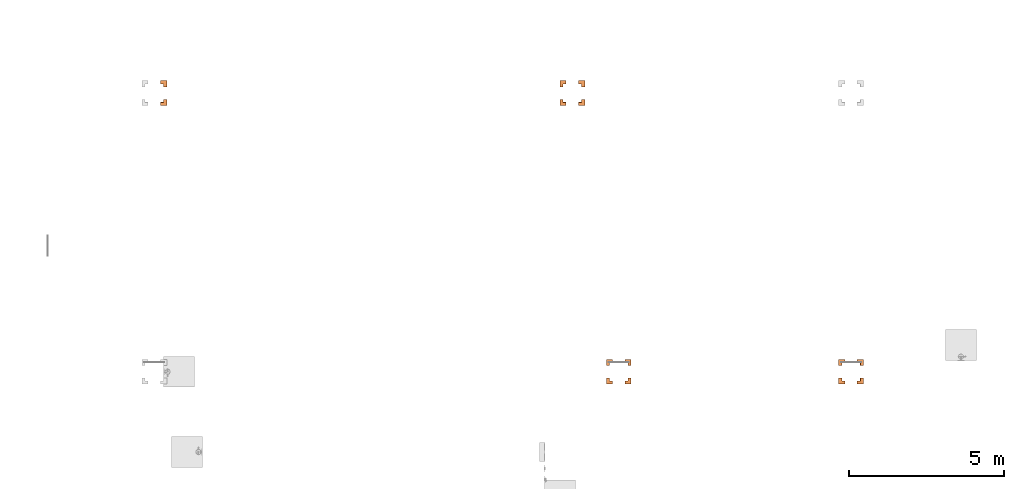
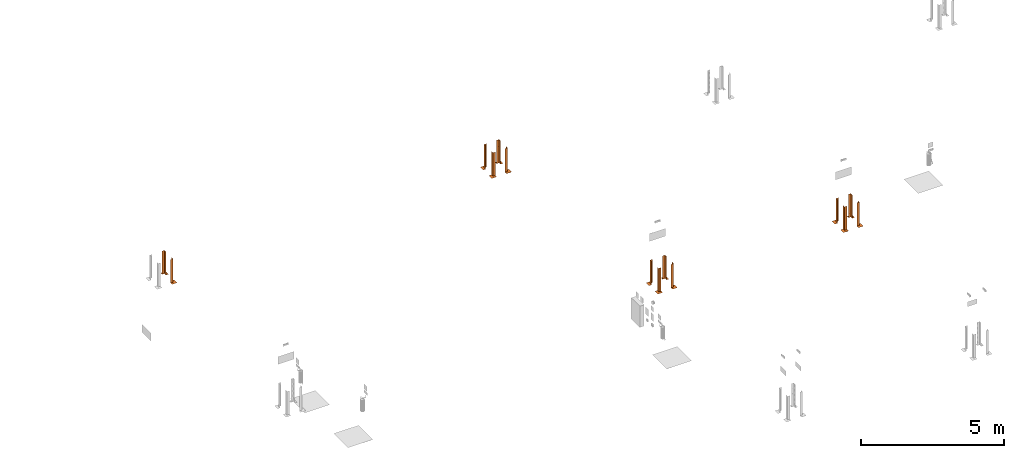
# One storey, part 15 of 119: 14 proxies.
"""IFC2X3 building model written with IfcOpenShell, lengths in metres."""

from ifc_helpers import new_model, entity, si_unit, converted_unit, derived_unit, direction, frame, origin, place, context, subcontext, project, spatial, faceted_brep, source, transform, mapped, material, material_list, type_object, type_shapes, element, save


model = new_model("IFC2X3")

# Units and contexts
model_context = context("Model", 3, precision=1e-05, world=origin(), true_north=direction((6.12303176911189e-17, 1.0)))
body_context = subcontext(model_context, "Body", "Model", "MODEL_VIEW")
ifc_project = project(units=[si_unit("LENGTHUNIT", "METRE"), si_unit("AREAUNIT", "SQUARE_METRE"), si_unit("VOLUMEUNIT", "CUBIC_METRE"), converted_unit("PLANEANGLEUNIT", "DEGREE", entity("IfcRatioMeasure", 0.0174532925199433), si_unit("PLANEANGLEUNIT", "RADIAN"), dimensions=[0, 0, 0, 0, 0, 0, 0]), si_unit("MASSUNIT", "GRAM", prefix="KILO"), derived_unit("MASSDENSITYUNIT", [(si_unit("MASSUNIT", "GRAM", prefix="KILO"), 1), (si_unit("LENGTHUNIT", "METRE"), -3)]), derived_unit("MOMENTOFINERTIAUNIT", [(si_unit("LENGTHUNIT", "METRE"), 4)]), si_unit("TIMEUNIT", "SECOND"), si_unit("FREQUENCYUNIT", "HERTZ"), si_unit("THERMODYNAMICTEMPERATUREUNIT", "DEGREE_CELSIUS"), derived_unit("THERMALTRANSMITTANCEUNIT", [(si_unit("MASSUNIT", "GRAM", prefix="KILO"), 1), (si_unit("THERMODYNAMICTEMPERATUREUNIT", "KELVIN"), -1), (si_unit("TIMEUNIT", "SECOND"), -3)]), derived_unit("VOLUMETRICFLOWRATEUNIT", [(si_unit("LENGTHUNIT", "METRE"), 3), (si_unit("TIMEUNIT", "SECOND"), -1)]), si_unit("ELECTRICCURRENTUNIT", "AMPERE"), si_unit("ELECTRICVOLTAGEUNIT", "VOLT"), si_unit("POWERUNIT", "WATT"), si_unit("FORCEUNIT", "NEWTON", prefix="KILO"), si_unit("ILLUMINANCEUNIT", "LUX"), si_unit("LUMINOUSFLUXUNIT", "LUMEN"), si_unit("LUMINOUSINTENSITYUNIT", "CANDELA"), derived_unit("USERDEFINED", [(si_unit("MASSUNIT", "GRAM", prefix="KILO"), -1), (si_unit("LENGTHUNIT", "METRE"), -2), (si_unit("TIMEUNIT", "SECOND"), 3), (si_unit("LUMINOUSFLUXUNIT", "LUMEN"), 1)]), derived_unit("LINEARVELOCITYUNIT", [(si_unit("LENGTHUNIT", "METRE"), 1), (si_unit("TIMEUNIT", "SECOND"), -1)]), si_unit("PRESSUREUNIT", "PASCAL"), derived_unit("USERDEFINED", [(si_unit("LENGTHUNIT", "METRE"), -2), (si_unit("MASSUNIT", "GRAM", prefix="KILO"), 1), (si_unit("TIMEUNIT", "SECOND"), -2)]), derived_unit("LINEARFORCEUNIT", [(si_unit("MASSUNIT", "GRAM", prefix="KILO"), 1), (si_unit("LENGTHUNIT", "METRE"), 1), (si_unit("TIMEUNIT", "SECOND"), -2), (si_unit("LENGTHUNIT", "METRE"), -1)]), derived_unit("PLANARFORCEUNIT", [(si_unit("MASSUNIT", "GRAM", prefix="KILO"), 1), (si_unit("LENGTHUNIT", "METRE"), 1), (si_unit("TIMEUNIT", "SECOND"), -2), (si_unit("LENGTHUNIT", "METRE"), -2)])], contexts=[model_context])

# Site, building, storey
site_placement = place(None, origin())
site = spatial("IfcSite", under=ifc_project, at=site_placement, Name="Default", CompositionType="ELEMENT")
building_placement = place(site_placement, origin())
building = spatial("IfcBuilding", under=site, at=building_placement, CompositionType="ELEMENT")
storey_placement = place(building_placement, origin())
storey = spatial("IfcBuildingStorey", under=building, at=storey_placement, Name="PAV. 01 - TÉRREO", CompositionType="ELEMENT", Elevation=0.0)

# Proxies
ifc_material_1 = material(Name="Plastico Amarelo")
ifc_material_2 = material(Name="Plastico Preto")
ifc_material_3 = material(Name="O_01_amarelo")
ifc_material_4 = material(Name="O_01_Preto")
ifc_material_list_1 = material_list([ifc_material_1, ifc_material_2, ifc_material_3, ifc_material_4])
ifc_material_list_2 = material_list([ifc_material_3, ifc_material_4, ifc_material_1])
building_element_proxy_type = type_object("IfcBuildingElementProxyType", Name="Indicação de Obstáculos:Indicador - O01 - Amarelo (ambiente interno)", PredefinedType="NOTDEFINED", material=ifc_material_list_2)
shared_shape = source(origin(), body_context, "Body", "Brep", [
    faceted_brep([(0.1, -0.0499999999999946, 0.000999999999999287), (0.0499999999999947, -0.1, 0.000999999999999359), (0.1, -0.1, 0.000999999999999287), (0.1, -0.0499999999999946, 0.0), (0.1, -0.1, 0.0), (0.0499999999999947, -0.1, 0.0)], [[[0, 1, 2]], [[3, 4, 5]], [[0, 2, 4, 3]], [[1, 0, 3, 5]], [[2, 1, 5, 4]]]),
    faceted_brep([(0.100000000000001, 0.0, 0.000999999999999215), (0.0, -0.1, 0.000999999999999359), (0.049999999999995, -0.1, 0.000999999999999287), (0.100000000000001, -0.0499999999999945, 0.000999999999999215), (0.100000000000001, 0.0, 0.0), (0.100000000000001, -0.0499999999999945, 0.0), (0.049999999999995, -0.1, 0.0), (0.0, -0.1, 0.0)], [[[0, 1, 2, 3]], [[4, 5, 6, 7]], [[0, 3, 5, 4]], [[1, 0, 4, 7]], [[3, 2, 6, 5]], [[2, 1, 7, 6]]]),
    faceted_brep([(0.049999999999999, 0.0, 0.000999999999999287), (-0.0500000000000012, -0.0999999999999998, 0.000999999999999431), (0.0, -0.1, 0.000999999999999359), (0.0999999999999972, 0.0, 0.000999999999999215), (0.049999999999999, 0.0, 0.0), (0.0999999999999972, 0.0, 0.0), (0.0, -0.1, 0.0), (-0.0500000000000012, -0.0999999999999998, 0.0)], [[[0, 1, 2, 3]], [[4, 5, 6, 7]], [[1, 0, 4, 7]], [[3, 2, 6, 5]], [[2, 1, 7, 6]], [[0, 3, 5, 4]]]),
    faceted_brep([(-0.0999999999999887, -0.0999999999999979, 0.000999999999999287), (-0.0499999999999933, -0.0999999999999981, 0.000999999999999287), (0.0499999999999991, 0.0, 0.000999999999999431), (0.0, 0.0, 0.000999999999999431), (-0.0999999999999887, -0.0999999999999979, 0.0), (0.0, 0.0, 0.0), (0.049999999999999, 0.0, 0.0), (-0.0499999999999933, -0.0999999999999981, 0.0)], [[[0, 1, 2, 3]], [[4, 5, 6, 7]], [[0, 3, 5, 4]], [[2, 1, 7, 6]], [[3, 2, 6, 5]], [[1, 0, 4, 7]]]),
    faceted_brep([(0.0, 0.0500000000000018, 0.000999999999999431), (-0.0999999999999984, -0.0500000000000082, 0.000999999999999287), (-0.099999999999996, -0.100000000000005, 0.000999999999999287), (0.0, 0.0, 0.000999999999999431), (0.0, 0.0500000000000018, 0.0), (0.0, 0.0, 0.0), (-0.099999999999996, -0.100000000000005, 0.0), (-0.0999999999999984, -0.0500000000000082, 0.0)], [[[0, 1, 2, 3]], [[4, 5, 6, 7]], [[0, 3, 5, 4]], [[1, 0, 4, 7]], [[2, 1, 7, 6]], [[3, 2, 6, 5]]]),
    faceted_brep([(-0.0999999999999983, 0.0499999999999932, 0.000999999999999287), (-0.0499999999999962, 0.1, 0.000999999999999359), (-0.100000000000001, 0.1, 0.000999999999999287), (-0.0999999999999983, 0.0499999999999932, 0.0), (-0.100000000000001, 0.1, 0.0), (-0.0499999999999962, 0.1, 0.0)], [[[0, 1, 2]], [[3, 4, 5]], [[0, 2, 4, 3]], [[1, 0, 3, 5]], [[2, 1, 5, 4]]]),
    faceted_brep([(-0.0999999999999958, 0.0, 0.000999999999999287), (0.0, 0.1, 0.000999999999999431), (-0.0499999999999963, 0.1, 0.000999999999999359), (-0.0999999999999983, 0.0499999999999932, 0.000999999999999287), (-0.0999999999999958, 0.0, 0.0), (-0.0999999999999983, 0.0499999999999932, 0.0), (-0.0499999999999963, 0.1, 0.0), (0.0, 0.1, 0.0)], [[[0, 1, 2, 3]], [[4, 5, 6, 7]], [[0, 3, 5, 4]], [[1, 0, 4, 7]], [[3, 2, 6, 5]], [[2, 1, 7, 6]]]),
    faceted_brep([(0.0, 0.050000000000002, 0.000999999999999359), (0.0, 0.1, 0.000999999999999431), (-0.0999999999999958, 0.0, 0.000999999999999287), (-0.0999999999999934, -0.0500000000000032, 0.000999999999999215), (0.0, 0.0500000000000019, 0.0), (-0.0999999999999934, -0.0500000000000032, 0.0), (-0.0999999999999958, 0.0, 0.0), (0.0, 0.1, 0.0)], [[[0, 1, 2, 3]], [[4, 5, 6, 7]], [[1, 0, 4, 7]], [[2, 1, 7, 6]], [[0, 3, 5, 4]], [[3, 2, 6, 5]]]),
    faceted_brep([(0.00200000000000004, 0.1, 1.0), (0.002, 0.00199999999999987, 0.902000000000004), (0.002, 0.00199999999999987, 0.802000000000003), (0.00200000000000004, 0.1, 0.900000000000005), (0.0, 0.1, 0.900000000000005), (0.0, 0.0, 0.800000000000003), (0.0, 0.0, 0.900000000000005), (0.0, 0.1, 1.0)], [[[0, 1, 2, 3]], [[4, 5, 6, 7]], [[4, 3, 2, 5]], [[1, 6, 5, 2]], [[6, 1, 0, 7]], [[3, 4, 7, 0]]]),
    faceted_brep([(0.00200000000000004, 0.1, 0.800000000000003), (0.002, 0.00199999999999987, 0.702000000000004), (0.002, 0.00199999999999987, 0.602000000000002), (0.00200000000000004, 0.1, 0.700000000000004), (0.0, 0.1, 0.700000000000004), (0.0, 0.0, 0.600000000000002), (0.0, 0.0, 0.700000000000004), (0.0, 0.1, 0.800000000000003)], [[[0, 1, 2, 3]], [[4, 5, 6, 7]], [[4, 3, 2, 5]], [[1, 6, 5, 2]], [[6, 1, 0, 7]], [[3, 4, 7, 0]]]),
    faceted_brep([(0.00200000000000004, 0.1, 0.600000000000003), (0.002, 0.00199999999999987, 0.502000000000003), (0.002, 0.00199999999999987, 0.402000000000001), (0.00200000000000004, 0.1, 0.500000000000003), (0.0, 0.1, 0.500000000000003), (0.0, 0.0, 0.400000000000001), (0.0, 0.0, 0.500000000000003), (0.0, 0.1, 0.600000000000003)], [[[0, 1, 2, 3]], [[4, 5, 6, 7]], [[4, 3, 2, 5]], [[1, 6, 5, 2]], [[6, 1, 0, 7]], [[3, 4, 7, 0]]]),
    faceted_brep([(0.00200000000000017, 0.0999999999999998, 0.400000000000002), (0.00200000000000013, 0.0019999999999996, 0.302000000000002), (0.00200000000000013, 0.0019999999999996, 0.202), (0.00200000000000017, 0.0999999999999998, 0.300000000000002), (0.0, 0.0999999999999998, 0.300000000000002), (0.0, 0.0, 0.2), (0.0, 0.0, 0.300000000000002), (0.0, 0.0999999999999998, 0.400000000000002)], [[[0, 1, 2, 3]], [[4, 5, 6, 7]], [[4, 3, 2, 5]], [[1, 6, 5, 2]], [[6, 1, 0, 7]], [[3, 4, 7, 0]]]),
    faceted_brep([(0.000500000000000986, 0.1, 0.900000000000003), (0.000500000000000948, 0.000499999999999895, 0.800500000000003), (0.000500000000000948, 0.00049999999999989, 0.700500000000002), (0.000500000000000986, 0.1, 0.800000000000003), (0.0, 0.1, 0.800000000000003), (0.0, 0.0, 0.700000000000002), (0.0, 0.0, 0.800000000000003), (0.0, 0.1, 0.900000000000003)], [[[0, 1, 2, 3]], [[4, 5, 6, 7]], [[4, 3, 2, 5]], [[1, 6, 5, 2]], [[6, 1, 0, 7]], [[3, 4, 7, 0]]]),
    faceted_brep([(0.000500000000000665, 0.1, 0.700000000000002), (0.000500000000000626, 0.000499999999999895, 0.600500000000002), (0.000500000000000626, 0.00049999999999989, 0.500500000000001), (0.000500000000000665, 0.1, 0.600000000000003), (0.0, 0.1, 0.600000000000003), (0.0, 0.0, 0.500000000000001), (0.0, 0.0, 0.600000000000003), (0.0, 0.1, 0.700000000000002)], [[[0, 1, 2, 3]], [[4, 5, 6, 7]], [[4, 3, 2, 5]], [[1, 6, 5, 2]], [[6, 1, 0, 7]], [[3, 4, 7, 0]]]),
    faceted_brep([(0.000500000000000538, 0.0999999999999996, 0.500000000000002), (0.000500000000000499, 0.000499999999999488, 0.400500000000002), (0.000500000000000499, 0.000499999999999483, 0.3005), (0.000500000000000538, 0.0999999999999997, 0.400000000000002), (0.0, 0.0999999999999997, 0.400000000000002), (0.0, 0.0, 0.3), (0.0, 0.0, 0.400000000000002), (0.0, 0.0999999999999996, 0.500000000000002)], [[[0, 1, 2, 3]], [[4, 5, 6, 7]], [[4, 3, 2, 5]], [[1, 6, 5, 2]], [[6, 1, 0, 7]], [[3, 4, 7, 0]]]),
    faceted_brep([(0.00499999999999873, 0.00499999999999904, 1.0), (0.00499999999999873, 0.00499999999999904, 0.904999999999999), (0.00499999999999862, 0.0999999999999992, 1.0), (0.0, 0.0, 0.899999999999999), (0.0, 0.0, 1.0), (0.0, 0.0999999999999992, 1.0)], [[[0, 1, 2]], [[3, 4, 5]], [[4, 0, 2, 5]], [[5, 2, 1, 3]], [[0, 4, 3, 1]]]),
    faceted_brep([(0.00499999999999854, 0.00499999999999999, 1.0), (0.0999999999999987, 0.00499999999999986, 1.0), (0.00499999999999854, 0.00499999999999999, 0.904999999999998), (0.0, 0.0, 0.899999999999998), (0.0999999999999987, 0.0, 1.0), (0.0, 0.0, 1.0)], [[[0, 1, 2]], [[3, 4, 5]], [[5, 4, 1, 0]], [[4, 3, 2, 1]], [[0, 2, 3, 5]]]),
    faceted_brep([(0.0999999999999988, 0.000499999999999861, 0.900000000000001), (0.0999999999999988, 0.000499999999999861, 0.800000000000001), (0.000499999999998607, 0.000499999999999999, 0.7005), (0.000499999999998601, 0.000499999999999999, 0.800500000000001), (0.0999999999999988, 0.0, 0.800000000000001), (0.0999999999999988, 0.0, 0.900000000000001), (0.0, 0.0, 0.800000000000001), (0.0, 0.0, 0.7)], [[[0, 1, 2, 3]], [[4, 5, 6, 7]], [[4, 7, 2, 1]], [[3, 2, 7, 6]], [[6, 5, 0, 3]], [[1, 0, 5, 4]]]),
    faceted_brep([(0.0999999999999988, 0.000499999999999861, 0.700000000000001), (0.0999999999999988, 0.000499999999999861, 0.600000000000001), (0.000499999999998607, 0.000499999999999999, 0.5005), (0.000499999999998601, 0.000499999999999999, 0.600500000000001), (0.0999999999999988, 0.0, 0.600000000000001), (0.0999999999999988, 0.0, 0.700000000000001), (0.0, 0.0, 0.600000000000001), (0.0, 0.0, 0.5)], [[[0, 1, 2, 3]], [[4, 5, 6, 7]], [[4, 7, 2, 1]], [[3, 2, 7, 6]], [[6, 5, 0, 3]], [[1, 0, 5, 4]]]),
    faceted_brep([(0.0999999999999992, 0.000499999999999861, 0.500000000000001), (0.0999999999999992, 0.000499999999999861, 0.400000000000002), (0.000499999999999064, 0.000499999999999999, 0.3005), (0.000499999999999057, 0.000499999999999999, 0.400500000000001), (0.0999999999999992, 0.0, 0.400000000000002), (0.0999999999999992, 0.0, 0.500000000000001), (0.0, 0.0, 0.400000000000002), (0.0, 0.0, 0.3)], [[[0, 1, 2, 3]], [[4, 5, 6, 7]], [[4, 7, 2, 1]], [[3, 2, 7, 6]], [[6, 5, 0, 3]], [[1, 0, 5, 4]]]),
    faceted_brep([(0.0999999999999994, 0.00199999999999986, 1.0), (0.0999999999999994, 0.00199999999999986, 0.900000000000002), (0.00199999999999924, 0.002, 0.802), (0.00199999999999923, 0.002, 0.902000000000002), (0.0999999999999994, 0.0, 0.900000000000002), (0.0999999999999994, 0.0, 1.0), (0.0, 0.0, 0.900000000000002), (0.0, 0.0, 0.8)], [[[0, 1, 2, 3]], [[4, 5, 6, 7]], [[4, 7, 2, 1]], [[3, 2, 7, 6]], [[6, 5, 0, 3]], [[1, 0, 5, 4]]]),
    faceted_brep([(0.0999999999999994, 0.00199999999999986, 0.800000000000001), (0.0999999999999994, 0.00199999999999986, 0.700000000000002), (0.00199999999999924, 0.002, 0.602), (0.00199999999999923, 0.002, 0.702000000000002), (0.0999999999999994, 0.0, 0.700000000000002), (0.0999999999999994, 0.0, 0.800000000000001), (0.0, 0.0, 0.700000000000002), (0.0, 0.0, 0.6)], [[[0, 1, 2, 3]], [[4, 5, 6, 7]], [[4, 7, 2, 1]], [[3, 2, 7, 6]], [[6, 5, 0, 3]], [[1, 0, 5, 4]]]),
    faceted_brep([(0.0999999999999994, 0.00199999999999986, 0.600000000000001), (0.0999999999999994, 0.00199999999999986, 0.500000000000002), (0.00199999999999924, 0.002, 0.402), (0.00199999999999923, 0.002, 0.502000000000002), (0.0999999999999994, 0.0, 0.500000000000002), (0.0999999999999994, 0.0, 0.600000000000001), (0.0, 0.0, 0.500000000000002), (0.0, 0.0, 0.4)], [[[0, 1, 2, 3]], [[4, 5, 6, 7]], [[4, 7, 2, 1]], [[3, 2, 7, 6]], [[6, 5, 0, 3]], [[1, 0, 5, 4]]]),
    faceted_brep([(0.0999999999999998, 0.00199999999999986, 0.400000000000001), (0.0999999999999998, 0.00199999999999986, 0.300000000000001), (0.00199999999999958, 0.002, 0.202), (0.00199999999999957, 0.002, 0.302000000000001), (0.0999999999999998, 0.0, 0.300000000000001), (0.0999999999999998, 0.0, 0.400000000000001), (0.0, 0.0, 0.300000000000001), (0.0, 0.0, 0.2)], [[[0, 1, 2, 3]], [[4, 5, 6, 7]], [[4, 7, 2, 1]], [[3, 2, 7, 6]], [[6, 5, 0, 3]], [[1, 0, 5, 4]]]),
    faceted_brep([(0.000500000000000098, 0.1, 0.300000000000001), (0.000500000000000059, 0.000499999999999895, 0.200500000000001), (0.000500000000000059, 0.00049999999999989, 0.1005), (0.000500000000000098, 0.1, 0.200000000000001), (0.0, 0.1, 0.200000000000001), (0.0, 0.0, 0.0999999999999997), (0.0, 0.0, 0.200000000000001), (0.0, 0.1, 0.300000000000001)], [[[0, 1, 2, 3]], [[4, 5, 6, 7]], [[4, 3, 2, 5]], [[1, 6, 5, 2]], [[6, 1, 0, 7]], [[3, 4, 7, 0]]]),
    faceted_brep([(0.00200000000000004, 0.1, 0.200000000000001), (0.002, 0.00199999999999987, 0.102000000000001), (0.002, 0.00199999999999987, 0.00199999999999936), (0.00200000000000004, 0.1, 0.100000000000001), (0.0, 0.1, 0.100000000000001), (0.0, 0.0, 0.0), (0.0, 0.0, 0.100000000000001), (0.0, 0.1, 0.200000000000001)], [[[0, 1, 2, 3]], [[4, 5, 6, 7]], [[4, 3, 2, 5]], [[1, 6, 5, 2]], [[6, 1, 0, 7]], [[3, 4, 7, 0]]]),
    faceted_brep([(0.000500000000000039, 0.1, 0.100000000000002), (0.0005, 0.000499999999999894, 0.000499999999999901), (0.0005, 0.000499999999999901, 0.0), (0.000500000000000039, 0.1, 0.0), (0.0, 0.0, 0.0), (0.0, 0.1, 0.100000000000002), (0.0, 0.1, 0.0)], [[[0, 1, 2, 3]], [[4, 5, 6]], [[3, 6, 5, 0]], [[6, 3, 2, 4]], [[4, 1, 0, 5]], [[1, 4, 2]]]),
    faceted_brep([(0.0999999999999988, 0.000499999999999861, 0.300000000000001), (0.0999999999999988, 0.000499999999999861, 0.200000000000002), (0.000499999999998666, 0.000499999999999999, 0.1005), (0.00049999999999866, 0.000499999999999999, 0.200500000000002), (0.0999999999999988, 0.0, 0.200000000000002), (0.0999999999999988, 0.0, 0.300000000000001), (0.0, 0.0, 0.200000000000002), (0.0, 0.0, 0.1)], [[[0, 1, 2, 3]], [[4, 5, 6, 7]], [[4, 7, 2, 1]], [[3, 2, 7, 6]], [[6, 5, 0, 3]], [[1, 0, 5, 4]]]),
    faceted_brep([(0.0999999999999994, 0.00199999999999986, 0.200000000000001), (0.0999999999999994, 0.00199999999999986, 0.100000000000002), (0.00199999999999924, 0.002, 0.0019999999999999), (0.00199999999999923, 0.002, 0.102000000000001), (0.0999999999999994, 0.0, 0.100000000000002), (0.0999999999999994, 0.0, 0.200000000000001), (0.0, 0.0, 0.100000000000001), (0.0, 0.0, 0.0)], [[[0, 1, 2, 3]], [[4, 5, 6, 7]], [[4, 7, 2, 1]], [[3, 2, 7, 6]], [[6, 5, 0, 3]], [[1, 0, 5, 4]]]),
    faceted_brep([(0.1, 0.000499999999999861, 0.100000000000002), (0.1, 0.000499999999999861, 0.0), (0.000499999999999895, 0.000499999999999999, 0.0), (0.000499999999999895, 0.000499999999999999, 0.000499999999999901), (0.0, 0.0, 0.0), (0.1, 0.0, 0.0), (0.1, 0.0, 0.100000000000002)], [[[0, 1, 2, 3]], [[4, 5, 6]], [[1, 0, 6, 5]], [[5, 4, 2, 1]], [[4, 6, 0, 3]], [[3, 2, 4]]]),
])
type_shapes(building_element_proxy_type, [shared_shape])
proxy_1_placement = place(storey_placement, frame((21.4738560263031, 31.6286451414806, 0.0), z_axis=(0.0, 0.0, 1.0), x_axis=(0.0, 1.0, 0.0)))
element("IfcBuildingElementProxy", 1, at=proxy_1_placement, inside=storey, type_object=building_element_proxy_type, material=ifc_material_list_1, Name="Indicação de Obstáculos:Indicador - O01 - Amarelo (ambiente interno)", ObjectType="Indicação de Obstáculos:Indicador - O01 - Amarelo (ambiente interno)", context=body_context, shape_type="MappedRepresentation", body=[
    mapped(shared_shape, transform((0.0, 0.0, 0.0), scale=1.0)),
])
ifc_material_list_3 = material_list([ifc_material_1, ifc_material_2, ifc_material_3, ifc_material_4])
proxy_2_placement = place(storey_placement, frame((20.873856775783, 31.6286451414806, 0.0)))
element("IfcBuildingElementProxy", 2, at=proxy_2_placement, inside=storey, type_object=building_element_proxy_type, material=ifc_material_list_3, Name="Indicação de Obstáculos:Indicador - O01 - Amarelo (ambiente interno)", ObjectType="Indicação de Obstáculos:Indicador - O01 - Amarelo (ambiente interno)", context=body_context, shape_type="MappedRepresentation", body=[
    mapped(shared_shape, transform((0.0, 0.0, 0.0), scale=1.0)),
])
ifc_material_list_4 = material_list([ifc_material_1, ifc_material_2, ifc_material_3, ifc_material_4])
proxy_3_placement = place(storey_placement, frame((21.4738560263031, 32.2286443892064, 0.0), z_axis=(0.0, 0.0, 1.0), x_axis=(-1.0, 0.0, 0.0)))
element("IfcBuildingElementProxy", 3, at=proxy_3_placement, inside=storey, type_object=building_element_proxy_type, material=ifc_material_list_4, Name="Indicação de Obstáculos:Indicador - O01 - Amarelo (ambiente interno)", ObjectType="Indicação de Obstáculos:Indicador - O01 - Amarelo (ambiente interno)", context=body_context, shape_type="MappedRepresentation", body=[
    mapped(shared_shape, transform((0.0, 0.0, 0.0), scale=1.0)),
])
ifc_material_list_5 = material_list([ifc_material_1, ifc_material_2, ifc_material_3, ifc_material_4])
proxy_4_placement = place(storey_placement, frame((20.8738567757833, 32.2286443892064, 0.0), z_axis=(0.0, 0.0, 1.0), x_axis=(0.0, -1.0, 0.0)))
element("IfcBuildingElementProxy", 4, at=proxy_4_placement, inside=storey, type_object=building_element_proxy_type, material=ifc_material_list_5, Name="Indicação de Obstáculos:Indicador - O01 - Amarelo (ambiente interno)", ObjectType="Indicação de Obstáculos:Indicador - O01 - Amarelo (ambiente interno)", context=body_context, shape_type="MappedRepresentation", body=[
    mapped(shared_shape, transform((0.0, 0.0, 0.0), scale=1.0)),
])
ifc_material_list_6 = material_list([ifc_material_1, ifc_material_2, ifc_material_3, ifc_material_4])
proxy_5_placement = place(storey_placement, frame((28.9738466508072, 31.6286451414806, 0.0), z_axis=(0.0, 0.0, 1.0), x_axis=(0.0, 1.0, 0.0)))
element("IfcBuildingElementProxy", 5, at=proxy_5_placement, inside=storey, type_object=building_element_proxy_type, material=ifc_material_list_6, Name="Indicação de Obstáculos:Indicador - O01 - Amarelo (ambiente interno)", ObjectType="Indicação de Obstáculos:Indicador - O01 - Amarelo (ambiente interno)", context=body_context, shape_type="MappedRepresentation", body=[
    mapped(shared_shape, transform((0.0, 0.0, 0.0), scale=1.0)),
])
ifc_material_list_7 = material_list([ifc_material_1, ifc_material_2, ifc_material_3, ifc_material_4])
proxy_6_placement = place(storey_placement, frame((28.3738474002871, 31.6286451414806, 0.0)))
element("IfcBuildingElementProxy", 6, at=proxy_6_placement, inside=storey, type_object=building_element_proxy_type, material=ifc_material_list_7, Name="Indicação de Obstáculos:Indicador - O01 - Amarelo (ambiente interno)", ObjectType="Indicação de Obstáculos:Indicador - O01 - Amarelo (ambiente interno)", context=body_context, shape_type="MappedRepresentation", body=[
    mapped(shared_shape, transform((0.0, 0.0, 0.0), scale=1.0)),
])
ifc_material_list_8 = material_list([ifc_material_1, ifc_material_2, ifc_material_3, ifc_material_4])
proxy_7_placement = place(storey_placement, frame((28.9738466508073, 32.2286443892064, 0.0), z_axis=(0.0, 0.0, 1.0), x_axis=(-1.0, 0.0, 0.0)))
element("IfcBuildingElementProxy", 7, at=proxy_7_placement, inside=storey, type_object=building_element_proxy_type, material=ifc_material_list_8, Name="Indicação de Obstáculos:Indicador - O01 - Amarelo (ambiente interno)", ObjectType="Indicação de Obstáculos:Indicador - O01 - Amarelo (ambiente interno)", context=body_context, shape_type="MappedRepresentation", body=[
    mapped(shared_shape, transform((0.0, 0.0, 0.0), scale=1.0)),
])
ifc_material_list_9 = material_list([ifc_material_1, ifc_material_2, ifc_material_3, ifc_material_4])
proxy_8_placement = place(storey_placement, frame((28.3738474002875, 32.2286443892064, 0.0), z_axis=(0.0, 0.0, 1.0), x_axis=(0.0, -1.0, 0.0)))
element("IfcBuildingElementProxy", 8, at=proxy_8_placement, inside=storey, type_object=building_element_proxy_type, material=ifc_material_list_9, Name="Indicação de Obstáculos:Indicador - O01 - Amarelo (ambiente interno)", ObjectType="Indicação de Obstáculos:Indicador - O01 - Amarelo (ambiente interno)", context=body_context, shape_type="MappedRepresentation", body=[
    mapped(shared_shape, transform((0.0, 0.0, 0.0), scale=1.0)),
])
ifc_material_list_10 = material_list([ifc_material_1, ifc_material_2, ifc_material_3, ifc_material_4])
proxy_9_placement = place(storey_placement, frame((6.47387477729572, 40.628633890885, 0.0), z_axis=(0.0, 0.0, 1.0), x_axis=(0.0, 1.0, 0.0)))
element("IfcBuildingElementProxy", 9, at=proxy_9_placement, inside=storey, type_object=building_element_proxy_type, material=ifc_material_list_10, Name="Indicação de Obstáculos:Indicador - O01 - Amarelo (ambiente interno)", ObjectType="Indicação de Obstáculos:Indicador - O01 - Amarelo (ambiente interno)", context=body_context, shape_type="MappedRepresentation", body=[
    mapped(shared_shape, transform((0.0, 0.0, 0.0), scale=1.0)),
])
ifc_material_list_11 = material_list([ifc_material_1, ifc_material_2, ifc_material_3, ifc_material_4])
proxy_10_placement = place(storey_placement, frame((6.47387477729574, 41.2286331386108, 0.0), z_axis=(0.0, 0.0, 1.0), x_axis=(-1.0, 0.0, 0.0)))
element("IfcBuildingElementProxy", 10, at=proxy_10_placement, inside=storey, type_object=building_element_proxy_type, material=ifc_material_list_11, Name="Indicação de Obstáculos:Indicador - O01 - Amarelo (ambiente interno)", ObjectType="Indicação de Obstáculos:Indicador - O01 - Amarelo (ambiente interno)", context=body_context, shape_type="MappedRepresentation", body=[
    mapped(shared_shape, transform((0.0, 0.0, 0.0), scale=1.0)),
])
ifc_material_list_12 = material_list([ifc_material_1, ifc_material_2, ifc_material_3, ifc_material_4])
proxy_11_placement = place(storey_placement, frame((19.9738579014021, 40.6286338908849, 0.0), z_axis=(0.0, 0.0, 1.0), x_axis=(0.0, 1.0, 0.0)))
element("IfcBuildingElementProxy", 11, at=proxy_11_placement, inside=storey, type_object=building_element_proxy_type, material=ifc_material_list_12, Name="Indicação de Obstáculos:Indicador - O01 - Amarelo (ambiente interno)", ObjectType="Indicação de Obstáculos:Indicador - O01 - Amarelo (ambiente interno)", context=body_context, shape_type="MappedRepresentation", body=[
    mapped(shared_shape, transform((0.0, 0.0, 0.0), scale=1.0)),
])
ifc_material_list_13 = material_list([ifc_material_1, ifc_material_2, ifc_material_3, ifc_material_4])
proxy_12_placement = place(storey_placement, frame((19.373858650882, 40.6286338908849, 0.0)))
element("IfcBuildingElementProxy", 12, at=proxy_12_placement, inside=storey, type_object=building_element_proxy_type, material=ifc_material_list_13, Name="Indicação de Obstáculos:Indicador - O01 - Amarelo (ambiente interno)", ObjectType="Indicação de Obstáculos:Indicador - O01 - Amarelo (ambiente interno)", context=body_context, shape_type="MappedRepresentation", body=[
    mapped(shared_shape, transform((0.0, 0.0, 0.0), scale=1.0)),
])
ifc_material_list_14 = material_list([ifc_material_1, ifc_material_2, ifc_material_3, ifc_material_4])
proxy_13_placement = place(storey_placement, frame((19.9738579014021, 41.2286331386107, 0.0), z_axis=(0.0, 0.0, 1.0), x_axis=(-1.0, 0.0, 0.0)))
element("IfcBuildingElementProxy", 13, at=proxy_13_placement, inside=storey, type_object=building_element_proxy_type, material=ifc_material_list_14, Name="Indicação de Obstáculos:Indicador - O01 - Amarelo (ambiente interno)", ObjectType="Indicação de Obstáculos:Indicador - O01 - Amarelo (ambiente interno)", context=body_context, shape_type="MappedRepresentation", body=[
    mapped(shared_shape, transform((0.0, 0.0, 0.0), scale=1.0)),
])
ifc_material_list_15 = material_list([ifc_material_1, ifc_material_2, ifc_material_3, ifc_material_4])
proxy_14_placement = place(storey_placement, frame((19.3738586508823, 41.2286331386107, 0.0), z_axis=(0.0, 0.0, 1.0), x_axis=(0.0, -1.0, 0.0)))
element("IfcBuildingElementProxy", 14, at=proxy_14_placement, inside=storey, type_object=building_element_proxy_type, material=ifc_material_list_15, Name="Indicação de Obstáculos:Indicador - O01 - Amarelo (ambiente interno)", ObjectType="Indicação de Obstáculos:Indicador - O01 - Amarelo (ambiente interno)", context=body_context, shape_type="MappedRepresentation", body=[
    mapped(shared_shape, transform((0.0, 0.0, 0.0), scale=1.0)),
])

save(model, "model.ifc")
